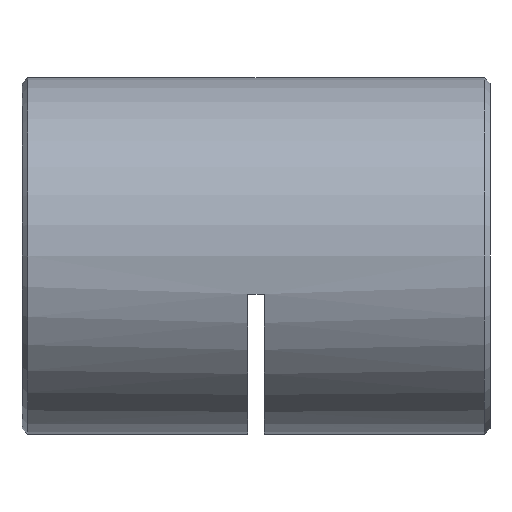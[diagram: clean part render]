
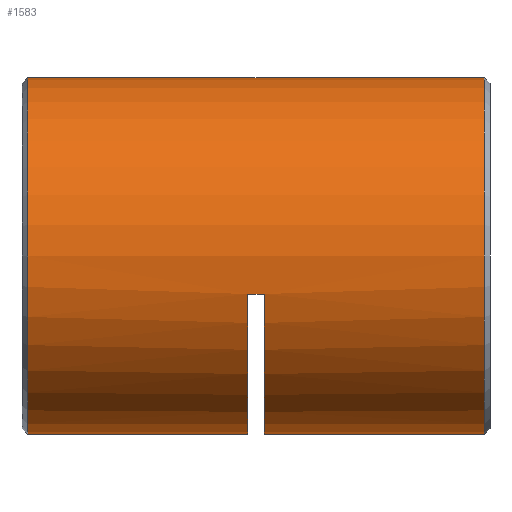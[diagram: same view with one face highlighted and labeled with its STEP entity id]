
A CAD part, left-side view. The second image highlights one B-rep face of the part: STEP entity #1583.
In plain terms, the highlighted cylindrical face has radius 16 mm (diameter 32 mm), a partial arc.
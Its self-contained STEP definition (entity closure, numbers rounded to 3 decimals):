
#20 = CIRCLE ( 'NONE', #102, 16. ) ;
#102 = AXIS2_PLACEMENT_3D ( 'NONE', #2249, #5050, #2738 ) ;
#115 = VERTEX_POINT ( 'NONE', #4876 ) ;
#223 = CARTESIAN_POINT ( 'NONE',  ( -15.632, 20.5, -3.413 ) ) ;
#242 = VERTEX_POINT ( 'NONE', #5463 ) ;
#290 = VERTEX_POINT ( 'NONE', #5087 ) ;
#431 = VERTEX_POINT ( 'NONE', #3460 ) ;
#569 = ORIENTED_EDGE ( 'NONE', *, *, #1316, .T. ) ;
#631 = EDGE_CURVE ( 'NONE', #2105, #2722, #2609, .T. ) ;
#640 = EDGE_CURVE ( 'NONE', #2105, #242, #20, .T. ) ;
#671 = CARTESIAN_POINT ( 'NONE',  ( 0., 42.5, 0. ) ) ;
#675 = EDGE_CURVE ( 'NONE', #2172, #4191, #6026, .T. ) ;
#721 = CARTESIAN_POINT ( 'NONE',  ( -15.632, 21.25, -3.413 ) ) ;
#791 = DIRECTION ( 'NONE',  ( 0., 0., 1. ) ) ;
#824 = DIRECTION ( 'NONE',  ( 0., 0., -1. ) ) ;
#825 = VECTOR ( 'NONE', #5956, 1000. ) ;
#913 = CIRCLE ( 'NONE', #2701, 16. ) ;
#927 = EDGE_CURVE ( 'NONE', #115, #242, #2217, .T. ) ;
#1082 = CARTESIAN_POINT ( 'NONE',  ( 0., 20.5, 0. ) ) ;
#1316 = EDGE_CURVE ( 'NONE', #290, #4191, #1589, .T. ) ;
#1555 = ORIENTED_EDGE ( 'NONE', *, *, #631, .T. ) ;
#1582 = DIRECTION ( 'NONE',  ( 0., -1., 0. ) ) ;
#1583 = ADVANCED_FACE ( 'NONE', ( #6083 ), #4273, .T. ) ;
#1589 = CIRCLE ( 'NONE', #3562, 16. ) ;
#1603 = ORIENTED_EDGE ( 'NONE', *, *, #927, .T. ) ;
#1646 = DIRECTION ( 'NONE',  ( 0., -1., 0. ) ) ;
#1728 = DIRECTION ( 'NONE',  ( 0., -1., 0. ) ) ;
#1818 = CARTESIAN_POINT ( 'NONE',  ( 0., 42.5, 16. ) ) ;
#1820 = VECTOR ( 'NONE', #5168, 1000. ) ;
#1852 = CARTESIAN_POINT ( 'NONE',  ( 0., 0.75, 0. ) ) ;
#1943 = CIRCLE ( 'NONE', #2699, 16. ) ;
#2082 = ORIENTED_EDGE ( 'NONE', *, *, #675, .F. ) ;
#2105 = VERTEX_POINT ( 'NONE', #2984 ) ;
#2172 = VERTEX_POINT ( 'NONE', #3329 ) ;
#2217 = LINE ( 'NONE', #5065, #2816 ) ;
#2249 = CARTESIAN_POINT ( 'NONE',  ( 0., 22., 0. ) ) ;
#2313 = ORIENTED_EDGE ( 'NONE', *, *, #4917, .T. ) ;
#2553 = AXIS2_PLACEMENT_3D ( 'NONE', #671, #1646, #3112 ) ;
#2609 = LINE ( 'NONE', #721, #825 ) ;
#2699 = AXIS2_PLACEMENT_3D ( 'NONE', #1082, #1582, #5934 ) ;
#2701 = AXIS2_PLACEMENT_3D ( 'NONE', #3728, #6028, #824 ) ;
#2722 = VERTEX_POINT ( 'NONE', #223 ) ;
#2738 = DIRECTION ( 'NONE',  ( 0., 0., -1. ) ) ;
#2775 = ORIENTED_EDGE ( 'NONE', *, *, #640, .F. ) ;
#2804 = ORIENTED_EDGE ( 'NONE', *, *, #3948, .T. ) ;
#2816 = VECTOR ( 'NONE', #1728, 1000. ) ;
#2984 = CARTESIAN_POINT ( 'NONE',  ( -15.632, 22., -3.413 ) ) ;
#3112 = DIRECTION ( 'NONE',  ( 0., 0., -1. ) ) ;
#3329 = CARTESIAN_POINT ( 'NONE',  ( 0., 41.75, 16. ) ) ;
#3410 = CARTESIAN_POINT ( 'NONE',  ( 0., 0.75, 16. ) ) ;
#3460 = CARTESIAN_POINT ( 'NONE',  ( 0., 20.5, -16. ) ) ;
#3562 = AXIS2_PLACEMENT_3D ( 'NONE', #1852, #5192, #791 ) ;
#3728 = CARTESIAN_POINT ( 'NONE',  ( 0., 41.75, 0. ) ) ;
#3948 = EDGE_CURVE ( 'NONE', #2722, #431, #1943, .T. ) ;
#4145 = DIRECTION ( 'NONE',  ( 0., -1., 0. ) ) ;
#4191 = VERTEX_POINT ( 'NONE', #3410 ) ;
#4259 = EDGE_LOOP ( 'NONE', ( #2082, #5528, #1603, #2775, #1555, #2804, #2313, #569 ) ) ;
#4273 = CYLINDRICAL_SURFACE ( 'NONE', #2553, 16. ) ;
#4876 = CARTESIAN_POINT ( 'NONE',  ( 0., 41.75, -16. ) ) ;
#4917 = EDGE_CURVE ( 'NONE', #431, #290, #6105, .T. ) ;
#5050 = DIRECTION ( 'NONE',  ( 0., -1., 0. ) ) ;
#5065 = CARTESIAN_POINT ( 'NONE',  ( 0., 42.5, -16. ) ) ;
#5087 = CARTESIAN_POINT ( 'NONE',  ( 0., 0.75, -16. ) ) ;
#5168 = DIRECTION ( 'NONE',  ( 0., -1., 0. ) ) ;
#5192 = DIRECTION ( 'NONE',  ( 0., 1., 0. ) ) ;
#5463 = CARTESIAN_POINT ( 'NONE',  ( 0., 22., -16. ) ) ;
#5498 = VECTOR ( 'NONE', #4145, 1000. ) ;
#5528 = ORIENTED_EDGE ( 'NONE', *, *, #6076, .T. ) ;
#5934 = DIRECTION ( 'NONE',  ( 0., 0., -1. ) ) ;
#5956 = DIRECTION ( 'NONE',  ( 0., -1., 0. ) ) ;
#6026 = LINE ( 'NONE', #1818, #1820 ) ;
#6028 = DIRECTION ( 'NONE',  ( 0., -1., 0. ) ) ;
#6060 = CARTESIAN_POINT ( 'NONE',  ( 0., 42.5, -16. ) ) ;
#6076 = EDGE_CURVE ( 'NONE', #2172, #115, #913, .T. ) ;
#6083 = FACE_OUTER_BOUND ( 'NONE', #4259, .T. ) ;
#6105 = LINE ( 'NONE', #6060, #5498 ) ;
